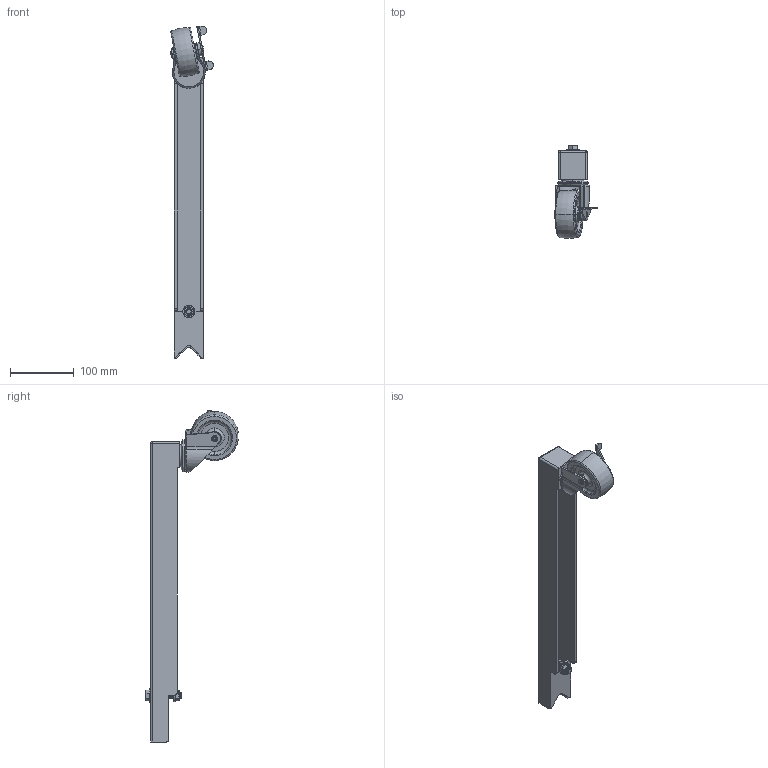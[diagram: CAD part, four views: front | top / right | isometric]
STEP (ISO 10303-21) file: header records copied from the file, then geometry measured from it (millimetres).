
FILE_DESCRIPTION (( 'STEP AP214' ), '1' );
FILE_NAME ('Floor Stand Leg with Caster, MOBL4X4-CSTR.STEP', '2017-07-19T13:51:46', ( '' ), ( '' ), 'SwSTEP 2.0', 'SolidWorks 2017', '' );
FILE_SCHEMA (( 'AUTOMOTIVE_DESIGN' ));
Length unit declared in the file: inch
Products named in the file (6): Locknut, 30369_93776A461; Cap Screw, 30368_92198A632; Flat Washer, 30372_96659A108; Caster Wheel, 30366 or 30519_2834T43; Leg, MOBL4X4-( ); Floor Stand Leg with Caster, MOBL4X4-CSTR
Assembly tree (5 placements, depth 2):
  Floor Stand Leg with Caster, MOBL4X4-CSTR
    Leg, MOBL4X4-( )
    Caster Wheel, 30366 or 30519_2834T43
    Flat Washer, 30372_96659A108
    Cap Screw, 30368_92198A632
    Locknut, 30369_93776A461
Bounding box: 67.79 x 146.3 x 522.87 mm (x, y, z)
Volume: 447292.7 mm3; surface area: 168465 mm2
Topology: 7 solids, 7 shells, 396 faces, 1053 edges, 677 vertices
Faces by surface type: plane 168, cylinder 154, cone 31, torus 28, bspline 13, sphere 2
Entity records: 22820 total; most frequent: CARTESIAN_POINT 13095, ORIENTED_EDGE 2094, DIRECTION 1733, EDGE_CURVE 1047, VERTEX_POINT 677, AXIS2_PLACEMENT_3D 625, LINE 483, VECTOR 483
